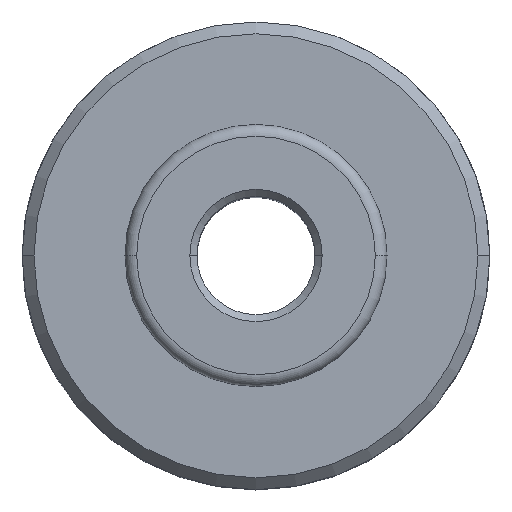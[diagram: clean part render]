
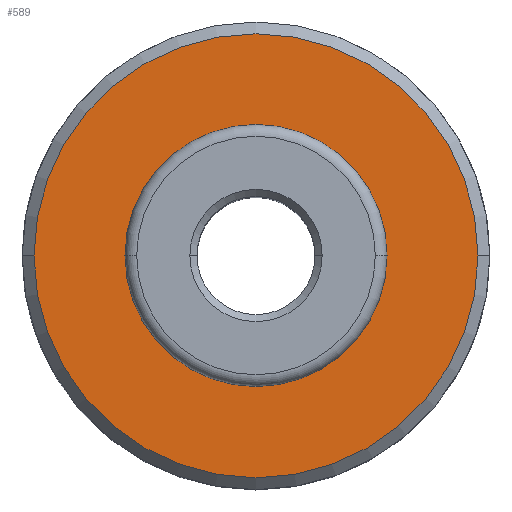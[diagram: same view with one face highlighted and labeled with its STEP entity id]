
A CAD part, top view. The second image highlights one B-rep face of the part: STEP entity #589.
In plain terms, the highlighted planar face has unit normal (0, 0, 1).
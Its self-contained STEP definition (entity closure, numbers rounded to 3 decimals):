
#128 = CARTESIAN_POINT ( 'NONE',  ( -9.4, 0., 17.7 ) ) ;
#149 = AXIS2_PLACEMENT_3D ( 'NONE', #1909, #934, #2081 ) ;
#222 = AXIS2_PLACEMENT_3D ( 'NONE', #1840, #857, #2001 ) ;
#229 = AXIS2_PLACEMENT_3D ( 'NONE', #1865, #879, #2020 ) ;
#255 = AXIS2_PLACEMENT_3D ( 'NONE', #1927, #1937, #2084 ) ;
#269 = PLANE ( 'NONE',  #721 ) ;
#365 = CARTESIAN_POINT ( 'NONE',  ( -4.5, 0., 17.7 ) ) ;
#433 = VERTEX_POINT ( 'NONE', #1350 ) ;
#447 = EDGE_LOOP ( 'NONE', ( #573, #2054 ) ) ;
#485 = VERTEX_POINT ( 'NONE', #701 ) ;
#534 = CIRCLE ( 'NONE', #255, 4.5 ) ;
#573 = ORIENTED_EDGE ( 'NONE', *, *, #577, .T. ) ;
#577 = EDGE_CURVE ( 'NONE', #859, #433, #534, .T. ) ;
#589 = ADVANCED_FACE ( 'NONE', ( #1464, #1354 ), #269, .F. ) ;
#608 = VERTEX_POINT ( 'NONE', #128 ) ;
#617 = DIRECTION ( 'NONE',  ( -1., 0., 0. ) ) ;
#644 = CIRCLE ( 'NONE', #229, 9.4 ) ;
#701 = CARTESIAN_POINT ( 'NONE',  ( 9.4, 0., 17.7 ) ) ;
#721 = AXIS2_PLACEMENT_3D ( 'NONE', #1267, #780, #617 ) ;
#780 = DIRECTION ( 'NONE',  ( 0., 0., -1. ) ) ;
#818 = EDGE_CURVE ( 'NONE', #433, #859, #1391, .T. ) ;
#857 = DIRECTION ( 'NONE',  ( 0., 0., -1. ) ) ;
#859 = VERTEX_POINT ( 'NONE', #365 ) ;
#879 = DIRECTION ( 'NONE',  ( 0., 0., 1. ) ) ;
#928 = EDGE_CURVE ( 'NONE', #608, #485, #1896, .T. ) ;
#934 = DIRECTION ( 'NONE',  ( 0., 0., 1. ) ) ;
#1267 = CARTESIAN_POINT ( 'NONE',  ( 4.5, 0., 17.7 ) ) ;
#1286 = ORIENTED_EDGE ( 'NONE', *, *, #1483, .T. ) ;
#1350 = CARTESIAN_POINT ( 'NONE',  ( 4.5, 0., 17.7 ) ) ;
#1354 = FACE_BOUND ( 'NONE', #447, .T. ) ;
#1391 = CIRCLE ( 'NONE', #222, 4.5 ) ;
#1464 = FACE_OUTER_BOUND ( 'NONE', #1559, .T. ) ;
#1483 = EDGE_CURVE ( 'NONE', #485, #608, #644, .T. ) ;
#1559 = EDGE_LOOP ( 'NONE', ( #2018, #1286 ) ) ;
#1840 = CARTESIAN_POINT ( 'NONE',  ( 0., 0., 17.7 ) ) ;
#1865 = CARTESIAN_POINT ( 'NONE',  ( 0., 0., 17.7 ) ) ;
#1896 = CIRCLE ( 'NONE', #149, 9.4 ) ;
#1909 = CARTESIAN_POINT ( 'NONE',  ( 0., 0., 17.7 ) ) ;
#1927 = CARTESIAN_POINT ( 'NONE',  ( 0., 0., 17.7 ) ) ;
#1937 = DIRECTION ( 'NONE',  ( 0., 0., -1. ) ) ;
#2001 = DIRECTION ( 'NONE',  ( -1., 0., 0. ) ) ;
#2018 = ORIENTED_EDGE ( 'NONE', *, *, #928, .T. ) ;
#2020 = DIRECTION ( 'NONE',  ( -1., 0., 0. ) ) ;
#2054 = ORIENTED_EDGE ( 'NONE', *, *, #818, .T. ) ;
#2081 = DIRECTION ( 'NONE',  ( -1., 0., 0. ) ) ;
#2084 = DIRECTION ( 'NONE',  ( -1., 0., 0. ) ) ;
